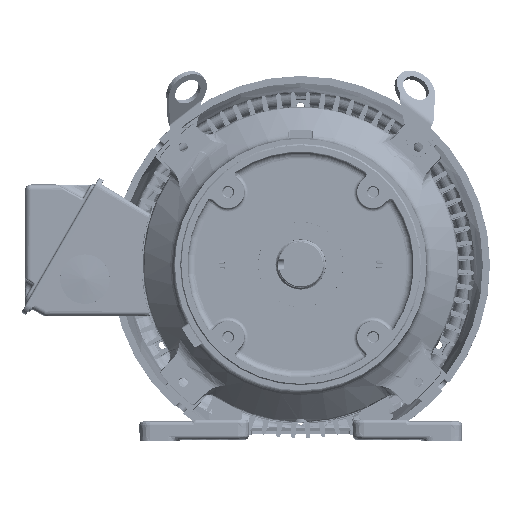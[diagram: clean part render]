
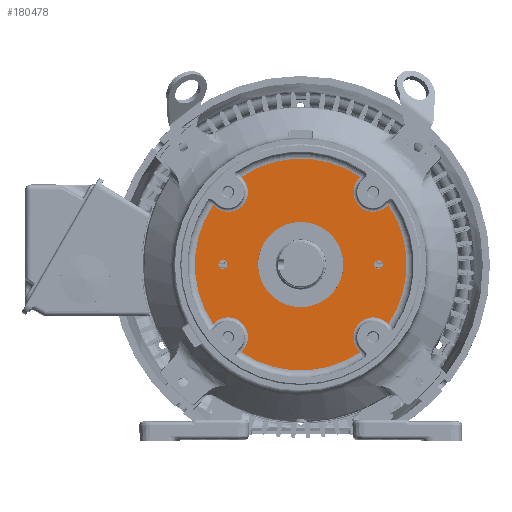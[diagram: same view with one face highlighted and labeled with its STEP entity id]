
A CAD part, top view. The second image highlights one B-rep face of the part: STEP entity #180478.
In plain terms, the highlighted planar face has unit normal (0, 0, 1) as drawn and (0, 0, -1) by its records, which use the part's own axes.
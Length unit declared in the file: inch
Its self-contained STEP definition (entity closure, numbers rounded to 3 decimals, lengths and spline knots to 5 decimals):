
#173634=CARTESIAN_POINT('',(0.,0.,-2.266));
#173635=DIRECTION('',(0.,0.,-1.));
#173636=DIRECTION('',(-0.827,-0.563,0.));
#173637=AXIS2_PLACEMENT_3D('',#173634,#173635,#173636);
#173649=CARTESIAN_POINT('',(0.,0.,-2.266));
#173650=DIRECTION('',(0.,0.,-1.));
#173651=DIRECTION('',(0.563,-0.827,0.));
#173652=AXIS2_PLACEMENT_3D('',#173649,#173650,#173651);
#173654=CARTESIAN_POINT('',(0.,0.,-2.266));
#173655=DIRECTION('',(0.,0.,-1.));
#173656=DIRECTION('',(-0.563,0.827,0.));
#173657=AXIS2_PLACEMENT_3D('',#173654,#173655,#173656);
#173664=CARTESIAN_POINT('',(0.,0.,-2.266));
#173665=DIRECTION('',(0.,0.,-1.));
#173666=DIRECTION('',(0.827,0.563,0.));
#173667=AXIS2_PLACEMENT_3D('',#173664,#173665,#173666);
#173689=CARTESIAN_POINT('',(-3.09494,-2.10574,
-2.266));
#173708=DIRECTION('',(-0.725,-0.688,
0.));
#173709=VECTOR('',#173708,0.07073);
#173710=CARTESIAN_POINT('',(-3.04364,-2.05705,-2.266));
#173711=LINE('',#173710,#173709);
#173722=CARTESIAN_POINT('',(-2.56326,-2.56326,-2.266));
#173723=DIRECTION('',(0.,0.,1.));
#173724=DIRECTION('',(0.725,-0.688,0.));
#173725=AXIS2_PLACEMENT_3D('',#173722,#173723,#173724);
#173736=DIRECTION('',(0.688,0.725,0.));
#173737=VECTOR('',#173736,0.07073);
#173738=CARTESIAN_POINT('',(-2.10574,-3.09494,
-2.266));
#173739=LINE('',#173738,#173737);
#173740=CARTESIAN_POINT('',(2.75,0.,-2.266));
#173741=DIRECTION('',(0.,0.,1.));
#173742=DIRECTION('',(1.,0.,0.));
#173743=AXIS2_PLACEMENT_3D('',#173740,#173741,#173742);
#173745=CARTESIAN_POINT('',(2.75,0.,-2.266));
#173746=DIRECTION('',(0.,0.,1.));
#173747=DIRECTION('',(-1.,0.,0.));
#173748=AXIS2_PLACEMENT_3D('',#173745,#173746,#173747);
#173750=CARTESIAN_POINT('',(-2.75,0.,-2.266));
#173751=DIRECTION('',(0.,0.,1.));
#173752=DIRECTION('',(-1.,0.,0.));
#173753=AXIS2_PLACEMENT_3D('',#173750,#173751,#173752);
#173755=CARTESIAN_POINT('',(-2.75,0.,-2.266));
#173756=DIRECTION('',(0.,0.,1.));
#173757=DIRECTION('',(1.,0.,0.));
#173758=AXIS2_PLACEMENT_3D('',#173755,#173756,#173757);
#173768=CARTESIAN_POINT('',(0.,0.,-2.266));
#173769=DIRECTION('',(0.,0.,-1.));
#173770=DIRECTION('',(0.,1.,0.));
#173771=AXIS2_PLACEMENT_3D('',#173768,#173769,#173770);
#173773=CARTESIAN_POINT('',(0.,0.,-2.266));
#173774=DIRECTION('',(0.,0.,1.));
#173775=DIRECTION('',(0.,1.,0.));
#173776=AXIS2_PLACEMENT_3D('',#173773,#173774,#173775);
#176407=DIRECTION('',(0.688,-0.725,0.));
#176408=VECTOR('',#176407,0.07073);
#176409=CARTESIAN_POINT('',(2.05705,-3.04364,-2.266));
#176410=LINE('',#176409,#176408);
#176471=CARTESIAN_POINT('',(3.09494,-2.10574,
-2.266));
#176482=DIRECTION('',(-0.725,0.688,0.));
#176483=VECTOR('',#176482,0.07073);
#176484=CARTESIAN_POINT('',(3.09494,-2.10574,
-2.266));
#176485=LINE('',#176484,#176483);
#176496=CARTESIAN_POINT('',(2.56326,-2.56326,-2.266));
#176497=DIRECTION('',(0.,0.,1.));
#176498=DIRECTION('',(0.688,0.725,0.));
#176499=AXIS2_PLACEMENT_3D('',#176496,#176497,#176498);
#176561=DIRECTION('',(0.725,0.688,0.));
#176562=VECTOR('',#176561,0.07073);
#176563=CARTESIAN_POINT('',(3.04364,2.05705,-2.266));
#176564=LINE('',#176563,#176562);
#176625=CARTESIAN_POINT('',(2.10574,3.09494,
-2.266));
#176636=DIRECTION('',(-0.688,-0.725,0.));
#176637=VECTOR('',#176636,0.07073);
#176638=CARTESIAN_POINT('',(2.10574,3.09494,
-2.266));
#176639=LINE('',#176638,#176637);
#176650=CARTESIAN_POINT('',(2.56326,2.56326,-2.266));
#176651=DIRECTION('',(0.,0.,1.));
#176652=DIRECTION('',(-0.725,0.688,0.));
#176653=AXIS2_PLACEMENT_3D('',#176650,#176651,#176652);
#176715=DIRECTION('',(-0.688,0.725,0.));
#176716=VECTOR('',#176715,0.07073);
#176717=CARTESIAN_POINT('',(-2.05705,3.04364,-2.266));
#176718=LINE('',#176717,#176716);
#176788=CARTESIAN_POINT('',(-2.56326,2.56326,-2.266));
#176789=DIRECTION('',(0.,0.,1.));
#176790=DIRECTION('',(-0.688,-0.725,0.));
#176791=AXIS2_PLACEMENT_3D('',#176788,#176789,#176790);
#176802=DIRECTION('',(0.725,-0.688,0.));
#176803=VECTOR('',#176802,0.07073);
#176804=CARTESIAN_POINT('',(-3.09494,2.10574,
-2.266));
#176805=LINE('',#176804,#176803);
#176829=CARTESIAN_POINT('',(-3.09494,2.10574,
-2.266));
#178352=VERTEX_POINT('',#173689);
#178356=CARTESIAN_POINT('',(-3.04364,-2.05705,-2.266));
#178357=VERTEX_POINT('',#178356);
#178360=CARTESIAN_POINT('',(-2.05705,-3.04364,-2.266));
#178361=VERTEX_POINT('',#178360);
#178364=CARTESIAN_POINT('',(-2.10574,-3.09494,
-2.266));
#178365=VERTEX_POINT('',#178364);
#178371=VERTEX_POINT('',#176829);
#178374=CARTESIAN_POINT('',(-3.04364,2.05705,-2.266));
#178375=VERTEX_POINT('',#178374);
#178378=CARTESIAN_POINT('',(-2.05705,3.04364,-2.266));
#178379=VERTEX_POINT('',#178378);
#178382=CARTESIAN_POINT('',(-2.10574,3.09494,
-2.266));
#178383=VERTEX_POINT('',#178382);
#178389=VERTEX_POINT('',#176625);
#178392=CARTESIAN_POINT('',(2.05705,3.04364,-2.266));
#178393=VERTEX_POINT('',#178392);
#178396=CARTESIAN_POINT('',(3.04364,2.05705,-2.266));
#178397=VERTEX_POINT('',#178396);
#178400=CARTESIAN_POINT('',(3.09494,2.10574,
-2.266));
#178401=VERTEX_POINT('',#178400);
#178407=VERTEX_POINT('',#176471);
#178410=CARTESIAN_POINT('',(3.04364,-2.05705,-2.266));
#178411=VERTEX_POINT('',#178410);
#178414=CARTESIAN_POINT('',(2.05705,-3.04364,-2.266));
#178415=VERTEX_POINT('',#178414);
#178418=CARTESIAN_POINT('',(2.10574,-3.09494,
-2.266));
#178419=VERTEX_POINT('',#178418);
#178592=CARTESIAN_POINT('',(2.9055,0.,-2.266));
#178593=CARTESIAN_POINT('',(2.5945,0.,-2.266));
#178594=VERTEX_POINT('',#178592);
#178595=VERTEX_POINT('',#178593);
#178596=CARTESIAN_POINT('',(-2.9055,0.,-2.266));
#178597=CARTESIAN_POINT('',(-2.5945,0.,-2.266));
#178598=VERTEX_POINT('',#178596);
#178599=VERTEX_POINT('',#178597);
#178779=CARTESIAN_POINT('',(0.,1.5075,-2.266));
#178781=VERTEX_POINT('',#178779);
#178783=CARTESIAN_POINT('',(0.,-1.5075,-2.266));
#178785=VERTEX_POINT('',#178783);
#180428=CARTESIAN_POINT('',(0.,0.,-2.266));
#180429=DIRECTION('',(0.,0.,1.));
#180430=DIRECTION('',(0.,1.,0.));
#180431=AXIS2_PLACEMENT_3D('',#180428,#180429,#180430);
#180432=PLANE('',#180431);
#180433=ORIENTED_EDGE('',*,*,#180395,.F.);
#180434=ORIENTED_EDGE('',*,*,#180409,.F.);
#180435=ORIENTED_EDGE('',*,*,#180422,.F.);
#180436=ORIENTED_EDGE('',*,*,#180303,.F.);
#180438=ORIENTED_EDGE('',*,*,#180437,.F.);
#180440=ORIENTED_EDGE('',*,*,#180439,.F.);
#180442=ORIENTED_EDGE('',*,*,#180441,.F.);
#180443=ORIENTED_EDGE('',*,*,#180330,.F.);
#180445=ORIENTED_EDGE('',*,*,#180444,.F.);
#180447=ORIENTED_EDGE('',*,*,#180446,.F.);
#180449=ORIENTED_EDGE('',*,*,#180448,.F.);
#180450=ORIENTED_EDGE('',*,*,#180315,.F.);
#180452=ORIENTED_EDGE('',*,*,#180451,.F.);
#180454=ORIENTED_EDGE('',*,*,#180453,.F.);
#180456=ORIENTED_EDGE('',*,*,#180455,.F.);
#180457=ORIENTED_EDGE('',*,*,#180286,.F.);
#180458=EDGE_LOOP('',(#180433,#180434,#180435,#180436,#180438,#180440,#180442,
#180443,#180445,#180447,#180449,#180450,#180452,#180454,#180456,#180457));
#180459=FACE_OUTER_BOUND('',#180458,.F.);
#180461=ORIENTED_EDGE('',*,*,#180460,.F.);
#180463=ORIENTED_EDGE('',*,*,#180462,.F.);
#180464=EDGE_LOOP('',(#180461,#180463));
#180465=FACE_BOUND('',#180464,.F.);
#180467=ORIENTED_EDGE('',*,*,#180466,.F.);
#180469=ORIENTED_EDGE('',*,*,#180468,.F.);
#180470=EDGE_LOOP('',(#180467,#180469));
#180471=FACE_BOUND('',#180470,.F.);
#180473=ORIENTED_EDGE('',*,*,#180472,.T.);
#180475=ORIENTED_EDGE('',*,*,#180474,.F.);
#180476=EDGE_LOOP('',(#180473,#180475));
#180477=FACE_BOUND('',#180476,.F.);
#180478=ADVANCED_FACE('',(#180459,#180465,#180471,#180477),#180432,.F.);
#173638=CIRCLE('',#173637,3.74337);
#173653=CIRCLE('',#173652,3.74337);
#173658=CIRCLE('',#173657,3.74337);
#173668=CIRCLE('',#173667,3.74337);
#173726=CIRCLE('',#173725,0.69786);
#173744=CIRCLE('',#173743,0.1555);
#173749=CIRCLE('',#173748,0.1555);
#173754=CIRCLE('',#173753,0.1555);
#173759=CIRCLE('',#173758,0.1555);
#173772=CIRCLE('',#173771,1.5075);
#173777=CIRCLE('',#173776,1.5075);
#176500=CIRCLE('',#176499,0.69786);
#176654=CIRCLE('',#176653,0.69786);
#176792=CIRCLE('',#176791,0.69786);
#180286=EDGE_CURVE('',#178352,#178371,#173638,.T.);
#180303=EDGE_CURVE('',#178419,#178365,#173653,.T.);
#180315=EDGE_CURVE('',#178383,#178389,#173658,.T.);
#180330=EDGE_CURVE('',#178401,#178407,#173668,.T.);
#180395=EDGE_CURVE('',#178357,#178352,#173711,.T.);
#180409=EDGE_CURVE('',#178361,#178357,#173726,.T.);
#180422=EDGE_CURVE('',#178365,#178361,#173739,.T.);
#180437=EDGE_CURVE('',#178415,#178419,#176410,.T.);
#180439=EDGE_CURVE('',#178411,#178415,#176500,.T.);
#180441=EDGE_CURVE('',#178407,#178411,#176485,.T.);
#180444=EDGE_CURVE('',#178397,#178401,#176564,.T.);
#180446=EDGE_CURVE('',#178393,#178397,#176654,.T.);
#180448=EDGE_CURVE('',#178389,#178393,#176639,.T.);
#180451=EDGE_CURVE('',#178379,#178383,#176718,.T.);
#180453=EDGE_CURVE('',#178375,#178379,#176792,.T.);
#180455=EDGE_CURVE('',#178371,#178375,#176805,.T.);
#180460=EDGE_CURVE('',#178594,#178595,#173744,.T.);
#180462=EDGE_CURVE('',#178595,#178594,#173749,.T.);
#180466=EDGE_CURVE('',#178598,#178599,#173754,.T.);
#180468=EDGE_CURVE('',#178599,#178598,#173759,.T.);
#180472=EDGE_CURVE('',#178781,#178785,#173772,.T.);
#180474=EDGE_CURVE('',#178781,#178785,#173777,.T.);
